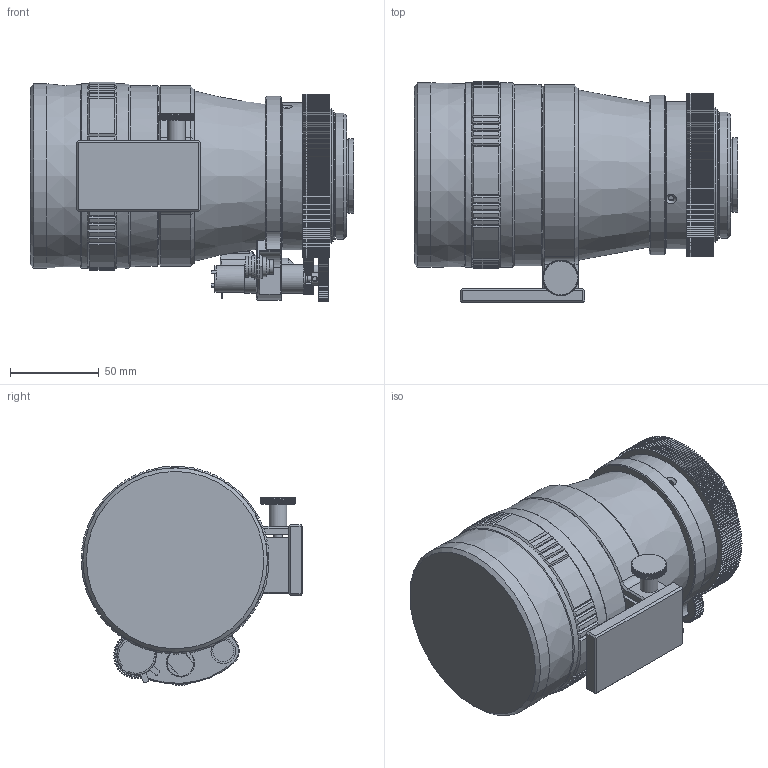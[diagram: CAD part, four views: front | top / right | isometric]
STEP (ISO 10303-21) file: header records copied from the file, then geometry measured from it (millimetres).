
FILE_DESCRIPTION((''),'2;1');
FILE_NAME('C:\Users\dblandino\Desktop\C1116_076_000.stp','2014-05-22T12:13:56',('dblandino'),(''),'Autodesk Inventor 2010','Autodesk Inventor 2010','');
FILE_SCHEMA(('AUTOMOTIVE_DESIGN { 1 0 10303 214 1 1 1 1 }'));
Length unit declared in the file: millimetre
Products named in the file (2): C1116_076_000.iam (Livello di dettaglio sostituto3); C1116_076_000_SUB
Assembly tree (1 placements, depth 2):
  C1116_076_000.iam (Livello di dettaglio sostituto3)
    C1116_076_000_SUB
Bounding box: 182.32 x 124.99 x 123.88 mm (x, y, z)
Volume: 1355441.1 mm3; surface area: 120625.6 mm2
Topology: 1 solids, 1 shells, 1940 faces, 5522 edges, 3604 vertices
Faces by surface type: cylinder 969, plane 832, cone 111, bspline 25, torus 3
Full cylindrical faces by diameter (mm): 3 x4, 3.2 x1, 5 x1, 6.32 x1, 7 x3, 8 x2, 9.38 x1, 10 x1, 10.26 x1, 11 x1, 11.1 x1, 11.9 x2, 13 x1, 14 x1, 14.31 x1, 15 x2, 16 x2, 22.2 x1, 40.7 x1, 42 x1, 71 x1, 76 x1, 77 x1, 83 x1, 96 x1, 102 x1, 104 x3
Entity records: 65005 total; most frequent: CARTESIAN_POINT 12499, ORIENTED_EDGE 10884, DIRECTION 10846, EDGE_CURVE 5442, AXIS2_PLACEMENT_3D 4028, VERTEX_POINT 3582, VECTOR 2790, LINE 2790
